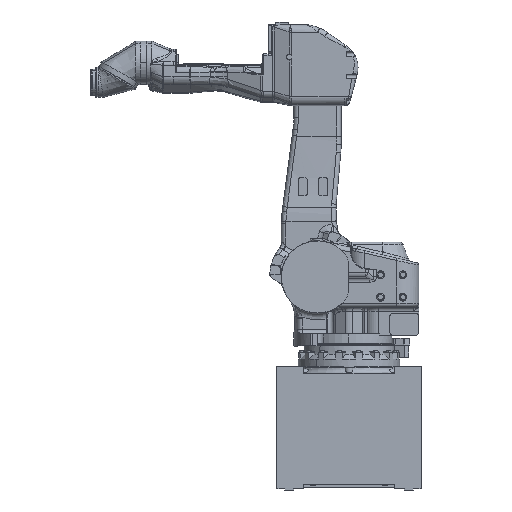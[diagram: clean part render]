
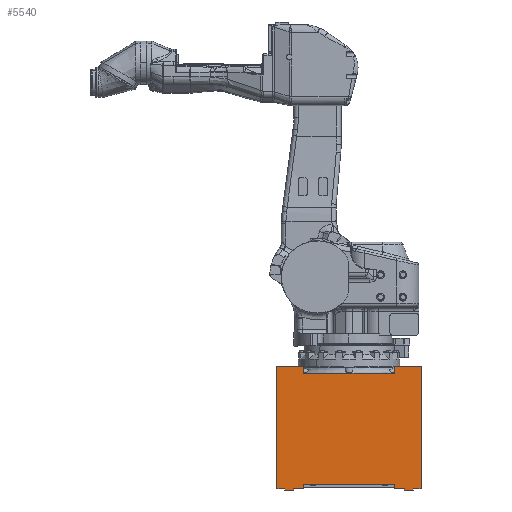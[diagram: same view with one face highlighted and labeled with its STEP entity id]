
A CAD part, left-side view. The second image highlights one B-rep face of the part: STEP entity #5540.
In plain terms, the highlighted planar face has unit normal (-1, 0, 0).
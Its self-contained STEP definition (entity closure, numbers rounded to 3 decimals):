
#3178=CARTESIAN_POINT('Line Origine',(-390.,260.,205.)) ;
#3182=CARTESIAN_POINT('Vertex',(-390.,200.,205.)) ;
#3184=CARTESIAN_POINT('Vertex',(-390.,320.,205.)) ;
#3218=CARTESIAN_POINT('Line Origine',(-390.,320.,-67.5)) ;
#3222=CARTESIAN_POINT('Vertex',(-390.,320.,-340.)) ;
#3255=CARTESIAN_POINT('Vertex',(-390.,285.,-340.)) ;
#3258=CARTESIAN_POINT('Line Origine',(-390.,302.5,-340.)) ;
#3280=CARTESIAN_POINT('Line Origine',(-390.,285.,-342.5)) ;
#3284=CARTESIAN_POINT('Vertex',(-390.,285.,-345.)) ;
#3311=CARTESIAN_POINT('Line Origine',(-390.,265.,-345.)) ;
#3315=CARTESIAN_POINT('Vertex',(-390.,245.,-345.)) ;
#3342=CARTESIAN_POINT('Line Origine',(-390.,245.,-342.5)) ;
#3346=CARTESIAN_POINT('Vertex',(-390.,245.,-340.)) ;
#3493=CARTESIAN_POINT('Line Origine',(-390.,200.,188.5)) ;
#3497=CARTESIAN_POINT('Vertex',(-390.,200.,172.)) ;
#5424=CARTESIAN_POINT('Axis2P3D Location',(-390.,-240.,0.)) ;
#5429=CARTESIAN_POINT('Line Origine',(-390.,-200.,-330.)) ;
#5433=CARTESIAN_POINT('Vertex',(-390.,-200.,-340.)) ;
#5435=CARTESIAN_POINT('Vertex',(-390.,-200.,-320.)) ;
#5438=CARTESIAN_POINT('Line Origine',(-390.,-222.5,-340.)) ;
#5442=CARTESIAN_POINT('Vertex',(-390.,-245.,-340.)) ;
#5445=CARTESIAN_POINT('Line Origine',(-390.,-245.,-342.5)) ;
#5449=CARTESIAN_POINT('Vertex',(-390.,-245.,-345.)) ;
#5452=CARTESIAN_POINT('Line Origine',(-390.,-265.,-345.)) ;
#5456=CARTESIAN_POINT('Vertex',(-390.,-285.,-345.)) ;
#5459=CARTESIAN_POINT('Line Origine',(-390.,-285.,-342.5)) ;
#5463=CARTESIAN_POINT('Vertex',(-390.,-285.,-340.)) ;
#5466=CARTESIAN_POINT('Line Origine',(-390.,-302.5,-340.)) ;
#5470=CARTESIAN_POINT('Vertex',(-390.,-320.,-340.)) ;
#5473=CARTESIAN_POINT('Line Origine',(-390.,-320.,-67.5)) ;
#5477=CARTESIAN_POINT('Vertex',(-390.,-320.,205.)) ;
#5480=CARTESIAN_POINT('Line Origine',(-390.,-260.,205.)) ;
#5484=CARTESIAN_POINT('Vertex',(-390.,-200.,205.)) ;
#5487=CARTESIAN_POINT('Line Origine',(-390.,-200.,188.5)) ;
#5491=CARTESIAN_POINT('Vertex',(-390.,-200.,172.)) ;
#5494=CARTESIAN_POINT('Line Origine',(-390.,0.,172.)) ;
#5499=CARTESIAN_POINT('Line Origine',(-390.,222.5,-340.)) ;
#5503=CARTESIAN_POINT('Vertex',(-390.,200.,-340.)) ;
#5506=CARTESIAN_POINT('Line Origine',(-390.,200.,-330.)) ;
#5510=CARTESIAN_POINT('Vertex',(-390.,200.,-320.)) ;
#5513=CARTESIAN_POINT('Line Origine',(-390.,0.,-320.)) ;
#3179=DIRECTION('Vector Direction',(0.,1.,0.)) ;
#3219=DIRECTION('Vector Direction',(0.,0.,1.)) ;
#3259=DIRECTION('Vector Direction',(0.,1.,0.)) ;
#3281=DIRECTION('Vector Direction',(0.,0.,1.)) ;
#3312=DIRECTION('Vector Direction',(0.,1.,0.)) ;
#3343=DIRECTION('Vector Direction',(0.,0.,-1.)) ;
#3494=DIRECTION('Vector Direction',(0.,0.,-1.)) ;
#5425=DIRECTION('Axis2P3D Direction',(1.,0.,0.)) ;
#5426=DIRECTION('Axis2P3D XDirection',(0.,1.,0.)) ;
#5430=DIRECTION('Vector Direction',(0.,0.,1.)) ;
#5439=DIRECTION('Vector Direction',(0.,1.,0.)) ;
#5446=DIRECTION('Vector Direction',(0.,0.,1.)) ;
#5453=DIRECTION('Vector Direction',(0.,1.,0.)) ;
#5460=DIRECTION('Vector Direction',(0.,0.,-1.)) ;
#5467=DIRECTION('Vector Direction',(0.,1.,0.)) ;
#5474=DIRECTION('Vector Direction',(0.,0.,-1.)) ;
#5481=DIRECTION('Vector Direction',(0.,1.,0.)) ;
#5488=DIRECTION('Vector Direction',(0.,0.,1.)) ;
#5495=DIRECTION('Vector Direction',(0.,1.,0.)) ;
#5500=DIRECTION('Vector Direction',(0.,1.,0.)) ;
#5507=DIRECTION('Vector Direction',(0.,0.,-1.)) ;
#5514=DIRECTION('Vector Direction',(0.,1.,0.)) ;
#5427=AXIS2_PLACEMENT_3D('Plane Axis2P3D',#5424,#5425,#5426) ;
#5519=ORIENTED_EDGE('',*,*,#5437,.F.) ;
#5520=ORIENTED_EDGE('',*,*,#5444,.F.) ;
#5521=ORIENTED_EDGE('',*,*,#5451,.F.) ;
#5522=ORIENTED_EDGE('',*,*,#5458,.F.) ;
#5523=ORIENTED_EDGE('',*,*,#5465,.F.) ;
#5524=ORIENTED_EDGE('',*,*,#5472,.F.) ;
#5525=ORIENTED_EDGE('',*,*,#5479,.F.) ;
#5526=ORIENTED_EDGE('',*,*,#5486,.T.) ;
#5527=ORIENTED_EDGE('',*,*,#5493,.F.) ;
#5528=ORIENTED_EDGE('',*,*,#5498,.T.) ;
#5529=ORIENTED_EDGE('',*,*,#3499,.F.) ;
#5530=ORIENTED_EDGE('',*,*,#3186,.T.) ;
#5531=ORIENTED_EDGE('',*,*,#3224,.F.) ;
#5532=ORIENTED_EDGE('',*,*,#3262,.F.) ;
#5533=ORIENTED_EDGE('',*,*,#3286,.F.) ;
#5534=ORIENTED_EDGE('',*,*,#3317,.F.) ;
#5535=ORIENTED_EDGE('',*,*,#3348,.F.) ;
#5536=ORIENTED_EDGE('',*,*,#5505,.F.) ;
#5537=ORIENTED_EDGE('',*,*,#5512,.F.) ;
#5538=ORIENTED_EDGE('',*,*,#5517,.F.) ;
#3180=VECTOR('Line Direction',#3179,1.) ;
#3220=VECTOR('Line Direction',#3219,1.) ;
#3260=VECTOR('Line Direction',#3259,1.) ;
#3282=VECTOR('Line Direction',#3281,1.) ;
#3313=VECTOR('Line Direction',#3312,1.) ;
#3344=VECTOR('Line Direction',#3343,1.) ;
#3495=VECTOR('Line Direction',#3494,1.) ;
#5431=VECTOR('Line Direction',#5430,1.) ;
#5440=VECTOR('Line Direction',#5439,1.) ;
#5447=VECTOR('Line Direction',#5446,1.) ;
#5454=VECTOR('Line Direction',#5453,1.) ;
#5461=VECTOR('Line Direction',#5460,1.) ;
#5468=VECTOR('Line Direction',#5467,1.) ;
#5475=VECTOR('Line Direction',#5474,1.) ;
#5482=VECTOR('Line Direction',#5481,1.) ;
#5489=VECTOR('Line Direction',#5488,1.) ;
#5496=VECTOR('Line Direction',#5495,1.) ;
#5501=VECTOR('Line Direction',#5500,1.) ;
#5508=VECTOR('Line Direction',#5507,1.) ;
#5515=VECTOR('Line Direction',#5514,1.) ;
#5540=ADVANCED_FACE('UNIT BASE_KJ264(tana).1\\60360-0447 BASE.1\\\X2\FF8AFF9FFF70FF82\X0\ \X2\FF8EFF9EFF83FF9EFF68FF70\X0\',(#5539),#5428,.F.) ;
#3186=EDGE_CURVE('',#3183,#3185,#3181,.T.) ;
#3224=EDGE_CURVE('',#3223,#3185,#3221,.T.) ;
#3262=EDGE_CURVE('',#3256,#3223,#3261,.T.) ;
#3286=EDGE_CURVE('',#3285,#3256,#3283,.T.) ;
#3317=EDGE_CURVE('',#3316,#3285,#3314,.T.) ;
#3348=EDGE_CURVE('',#3347,#3316,#3345,.T.) ;
#3499=EDGE_CURVE('',#3183,#3498,#3496,.T.) ;
#5437=EDGE_CURVE('',#5434,#5436,#5432,.T.) ;
#5444=EDGE_CURVE('',#5443,#5434,#5441,.T.) ;
#5451=EDGE_CURVE('',#5450,#5443,#5448,.T.) ;
#5458=EDGE_CURVE('',#5457,#5450,#5455,.T.) ;
#5465=EDGE_CURVE('',#5464,#5457,#5462,.T.) ;
#5472=EDGE_CURVE('',#5471,#5464,#5469,.T.) ;
#5479=EDGE_CURVE('',#5478,#5471,#5476,.T.) ;
#5486=EDGE_CURVE('',#5478,#5485,#5483,.T.) ;
#5493=EDGE_CURVE('',#5492,#5485,#5490,.T.) ;
#5498=EDGE_CURVE('',#5492,#3498,#5497,.T.) ;
#5505=EDGE_CURVE('',#5504,#3347,#5502,.T.) ;
#5512=EDGE_CURVE('',#5511,#5504,#5509,.T.) ;
#5517=EDGE_CURVE('',#5436,#5511,#5516,.T.) ;
#5518=EDGE_LOOP('',(#5519,#5520,#5521,#5522,#5523,#5524,#5525,#5526,#5527,#5528,#5529,#5530,#5531,#5532,#5533,#5534,#5535,#5536,#5537,#5538)) ;
#5539=FACE_OUTER_BOUND('',#5518,.T.) ;
#3181=LINE('Line',#3178,#3180) ;
#3221=LINE('Line',#3218,#3220) ;
#3261=LINE('Line',#3258,#3260) ;
#3283=LINE('Line',#3280,#3282) ;
#3314=LINE('Line',#3311,#3313) ;
#3345=LINE('Line',#3342,#3344) ;
#3496=LINE('Line',#3493,#3495) ;
#5432=LINE('Line',#5429,#5431) ;
#5441=LINE('Line',#5438,#5440) ;
#5448=LINE('Line',#5445,#5447) ;
#5455=LINE('Line',#5452,#5454) ;
#5462=LINE('Line',#5459,#5461) ;
#5469=LINE('Line',#5466,#5468) ;
#5476=LINE('Line',#5473,#5475) ;
#5483=LINE('Line',#5480,#5482) ;
#5490=LINE('Line',#5487,#5489) ;
#5497=LINE('Line',#5494,#5496) ;
#5502=LINE('Line',#5499,#5501) ;
#5509=LINE('Line',#5506,#5508) ;
#5516=LINE('Line',#5513,#5515) ;
#5428=PLANE('',#5427) ;
#3183=VERTEX_POINT('',#3182) ;
#3185=VERTEX_POINT('',#3184) ;
#3223=VERTEX_POINT('',#3222) ;
#3256=VERTEX_POINT('',#3255) ;
#3285=VERTEX_POINT('',#3284) ;
#3316=VERTEX_POINT('',#3315) ;
#3347=VERTEX_POINT('',#3346) ;
#3498=VERTEX_POINT('',#3497) ;
#5434=VERTEX_POINT('',#5433) ;
#5436=VERTEX_POINT('',#5435) ;
#5443=VERTEX_POINT('',#5442) ;
#5450=VERTEX_POINT('',#5449) ;
#5457=VERTEX_POINT('',#5456) ;
#5464=VERTEX_POINT('',#5463) ;
#5471=VERTEX_POINT('',#5470) ;
#5478=VERTEX_POINT('',#5477) ;
#5485=VERTEX_POINT('',#5484) ;
#5492=VERTEX_POINT('',#5491) ;
#5504=VERTEX_POINT('',#5503) ;
#5511=VERTEX_POINT('',#5510) ;
